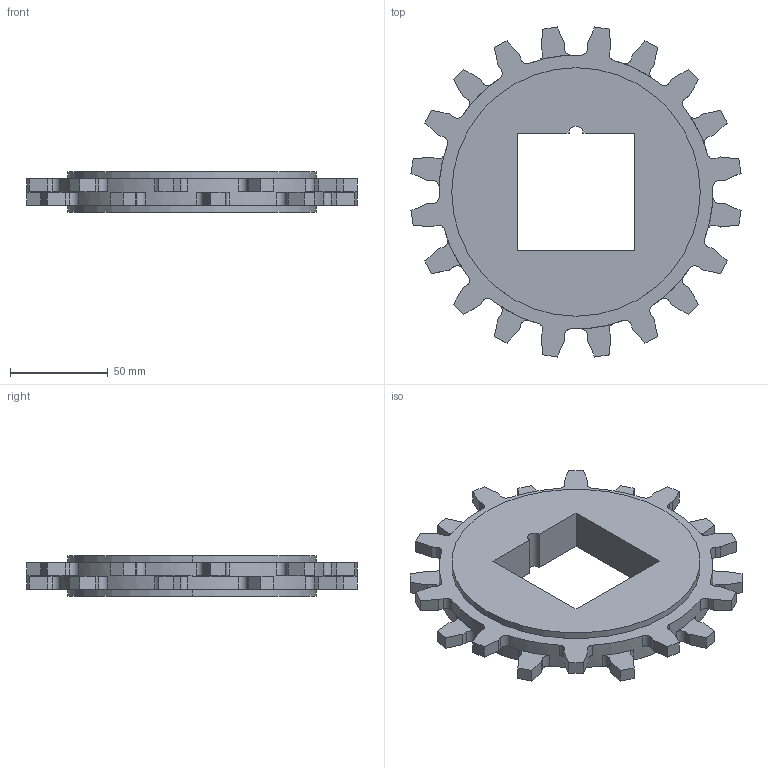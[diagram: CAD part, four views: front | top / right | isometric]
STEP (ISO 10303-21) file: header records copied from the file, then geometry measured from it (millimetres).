
FILE_DESCRIPTION((''),'2;1');
FILE_NAME('S2700_SPROCKET_65_SQ','2008-12-12T',('jmumphre'),(''),'PRO/ENGINEER BY PARAMETRIC TECHNOLOGY CORPORATION, 2008150','PRO/ENGINEER BY PARAMETRIC TECHNOLOGY CORPORATION, 2008150','');
FILE_SCHEMA(('CONFIG_CONTROL_DESIGN'));
Length unit declared in the file: inch
Products named in the file (1): S2700_SPROCKET_65_SQ
Bounding box: 168.73 x 168.73 x 20.83 mm (x, y, z)
Volume: 246876 mm3; surface area: 47142.6 mm2
Topology: 1 solids, 1 shells, 176 faces, 516 edges, 344 vertices
Faces by surface type: plane 129, cylinder 47
Entity records: 5898 total; most frequent: CARTESIAN_POINT 1036, ORIENTED_EDGE 1032, DIRECTION 1002, EDGE_CURVE 516, VECTOR 382, LINE 382, VERTEX_POINT 344, AXIS2_PLACEMENT_3D 310
